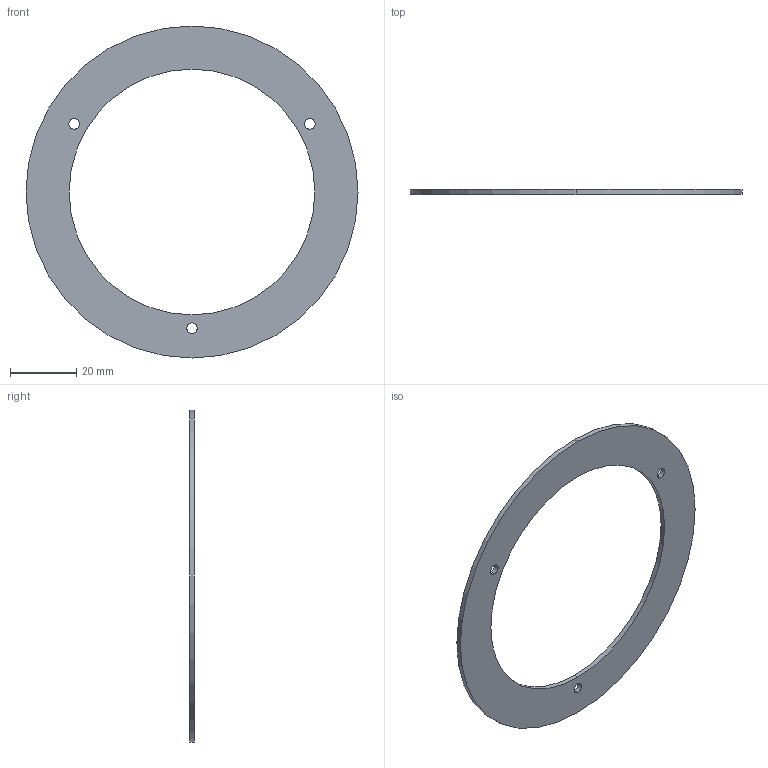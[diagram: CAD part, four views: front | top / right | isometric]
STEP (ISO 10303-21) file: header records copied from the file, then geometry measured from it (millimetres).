
FILE_DESCRIPTION (( 'STEP AP214' ), '1' );
FILE_NAME ('60x Large plate.STEP', '2024-02-28T19:55:23', ( '' ), ( '' ), 'SwSTEP 2.0', 'SolidWorks 2023', '' );
FILE_SCHEMA (( 'AUTOMOTIVE_DESIGN' ));
Length unit declared in the file: millimetre
Products named in the file (1): 60x Large plate
Bounding box: 100 x 1.5 x 100 mm (x, y, z)
Volume: 5293.5 mm3; surface area: 7923.2 mm2
Topology: 1 solids, 1 shells, 12 faces, 30 edges, 20 vertices
Faces by surface type: cylinder 10, plane 2
Entity records: 413 total; most frequent: DIRECTION 76, CARTESIAN_POINT 63, ORIENTED_EDGE 60, AXIS2_PLACEMENT_3D 33, EDGE_CURVE 30, VERTEX_POINT 20, CIRCLE 20, EDGE_LOOP 20
